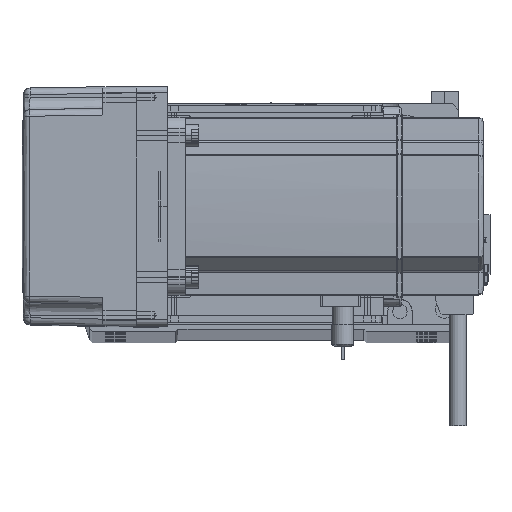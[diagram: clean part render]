
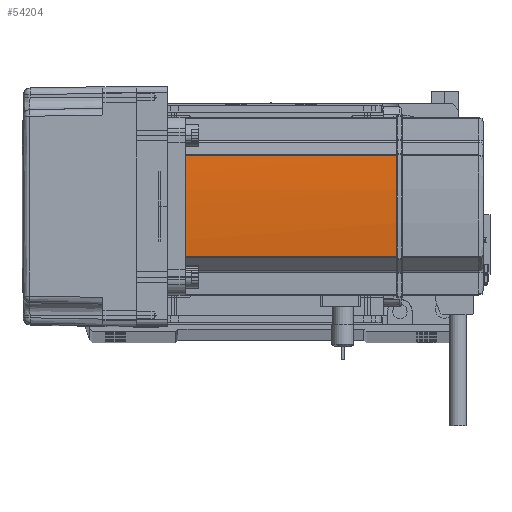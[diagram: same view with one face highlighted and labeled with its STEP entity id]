
A CAD part, top view. The second image highlights one B-rep face of the part: STEP entity #54204.
In plain terms, the highlighted cylindrical face has radius 270 mm (diameter 540 mm), a partial arc.
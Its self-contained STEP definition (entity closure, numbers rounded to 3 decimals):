
#1209 = CARTESIAN_POINT ( 'NONE',  ( 39.042, -22.724, 39. ) ) ;
#3059 = DIRECTION ( 'NONE',  ( 0., 0., -1. ) ) ;
#3746 = ORIENTED_EDGE ( 'NONE', *, *, #51500, .T. ) ;
#3772 = DIRECTION ( 'NONE',  ( -1., 0., 0. ) ) ;
#4441 = CARTESIAN_POINT ( 'NONE',  ( 39.042, 22.724, 58. ) ) ;
#5485 = ORIENTED_EDGE ( 'NONE', *, *, #32647, .F. ) ;
#6662 = DIRECTION ( 'NONE',  ( 0., 0., -1. ) ) ;
#8525 = VECTOR ( 'NONE', #44233, 1000. ) ;
#8675 = CIRCLE ( 'NONE', #16626, 270. ) ;
#10383 = VECTOR ( 'NONE', #25467, 1000. ) ;
#11440 = DIRECTION ( 'NONE',  ( 0., 0., -1. ) ) ;
#12440 = LINE ( 'NONE', #4441, #8525 ) ;
#12808 = ORIENTED_EDGE ( 'NONE', *, *, #16729, .T. ) ;
#15310 = FACE_OUTER_BOUND ( 'NONE', #28685, .T. ) ;
#16055 = CARTESIAN_POINT ( 'NONE',  ( 40., -0.127, 134. ) ) ;
#16353 = CIRCLE ( 'NONE', #19132, 270. ) ;
#16626 = AXIS2_PLACEMENT_3D ( 'NONE', #17769, #17103, #32890 ) ;
#16729 = EDGE_CURVE ( 'NONE', #46535, #29397, #37931, .T. ) ;
#17103 = DIRECTION ( 'NONE',  ( 0., 0., -1. ) ) ;
#17769 = CARTESIAN_POINT ( 'NONE',  ( -230., 0., 134. ) ) ;
#19132 = AXIS2_PLACEMENT_3D ( 'NONE', #26918, #6662, #42704 ) ;
#19596 = EDGE_CURVE ( 'NONE', #23289, #32725, #8675, .T. ) ;
#19911 = B_SPLINE_CURVE_WITH_KNOTS ( 'NONE', 3,
 ( #16055, #36293, #41296, #41515 ),
 .UNSPECIFIED., .F., .F.,
 ( 4, 4 ),
 ( 0., 1. ),
 .UNSPECIFIED. ) ;
#21251 = AXIS2_PLACEMENT_3D ( 'NONE', #37963, #3059, #57744 ) ;
#23289 = VERTEX_POINT ( 'NONE', #58920 ) ;
#24585 = CIRCLE ( 'NONE', #48216, 270. ) ;
#25467 = DIRECTION ( 'NONE',  ( 0., 0., -1. ) ) ;
#26918 = CARTESIAN_POINT ( 'NONE',  ( -230., 0., 39. ) ) ;
#28433 = ORIENTED_EDGE ( 'NONE', *, *, #45381, .F. ) ;
#28685 = EDGE_LOOP ( 'NONE', ( #12808, #28433, #3746, #39499, #5485, #61833 ) ) ;
#29397 = VERTEX_POINT ( 'NONE', #1209 ) ;
#32353 = VERTEX_POINT ( 'NONE', #49490 ) ;
#32647 = EDGE_CURVE ( 'NONE', #60183, #32725, #19911, .T. ) ;
#32725 = VERTEX_POINT ( 'NONE', #35303 ) ;
#32890 = DIRECTION ( 'NONE',  ( -1., 0., 0. ) ) ;
#34785 = CARTESIAN_POINT ( 'NONE',  ( 40., -0.127, 134. ) ) ;
#35303 = CARTESIAN_POINT ( 'NONE',  ( 40., 0.127, 134. ) ) ;
#36293 = CARTESIAN_POINT ( 'NONE',  ( 40., -0.042, 134. ) ) ;
#37931 = LINE ( 'NONE', #60612, #10383 ) ;
#37963 = CARTESIAN_POINT ( 'NONE',  ( -230., 0., 58. ) ) ;
#39499 = ORIENTED_EDGE ( 'NONE', *, *, #19596, .T. ) ;
#39652 = CARTESIAN_POINT ( 'NONE',  ( 39.042, -22.724, 134. ) ) ;
#41296 = CARTESIAN_POINT ( 'NONE',  ( 40., 0.042, 134. ) ) ;
#41515 = CARTESIAN_POINT ( 'NONE',  ( 40., 0.127, 134. ) ) ;
#42704 = DIRECTION ( 'NONE',  ( -1., 0., 0. ) ) ;
#44233 = DIRECTION ( 'NONE',  ( 0., 0., 1. ) ) ;
#45381 = EDGE_CURVE ( 'NONE', #32353, #29397, #16353, .T. ) ;
#46535 = VERTEX_POINT ( 'NONE', #39652 ) ;
#48216 = AXIS2_PLACEMENT_3D ( 'NONE', #63306, #11440, #3772 ) ;
#49490 = CARTESIAN_POINT ( 'NONE',  ( 39.042, 22.724, 39. ) ) ;
#51500 = EDGE_CURVE ( 'NONE', #32353, #23289, #12440, .T. ) ;
#53826 = CYLINDRICAL_SURFACE ( 'NONE', #21251, 270. ) ;
#54204 = ADVANCED_FACE ( 'NONE', ( #15310 ), #53826, .T. ) ;
#55116 = EDGE_CURVE ( 'NONE', #60183, #46535, #24585, .T. ) ;
#57744 = DIRECTION ( 'NONE',  ( -1., 0., 0. ) ) ;
#58920 = CARTESIAN_POINT ( 'NONE',  ( 39.042, 22.724, 134. ) ) ;
#60183 = VERTEX_POINT ( 'NONE', #34785 ) ;
#60612 = CARTESIAN_POINT ( 'NONE',  ( 39.042, -22.724, 58. ) ) ;
#61833 = ORIENTED_EDGE ( 'NONE', *, *, #55116, .T. ) ;
#63306 = CARTESIAN_POINT ( 'NONE',  ( -230., 0., 134. ) ) ;
